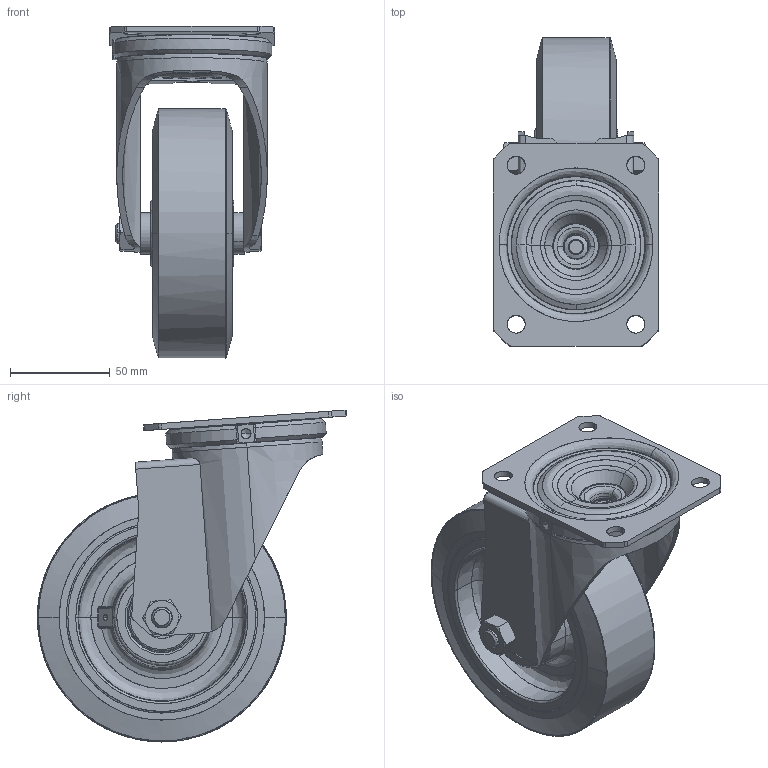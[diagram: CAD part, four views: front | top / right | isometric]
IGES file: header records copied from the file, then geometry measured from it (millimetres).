
Start section: SolidWorks IGES file using analytic representation for surfaces
Global section: file name: S:\Tyokansio\KULJETUSPYÖRÄT\LK\LS\IGES\401514_.igs; native system: SolidWorks 2014; preprocessor: SolidWorks 2014; author: markola; date: 150914.094216; units: millimetre
Bounding box: 83 x 155.22 x 166.64 mm (x, y, z)
Surface area: 135057 mm2 (no closed solid volume)
Topology: 0 solids, 0 shells, 530 faces, 6750 edges, 6743 vertices
Faces by surface type: bspline 372, revolution 158
